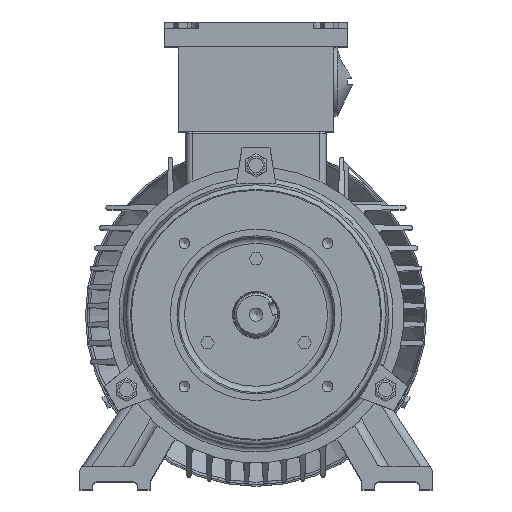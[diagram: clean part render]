
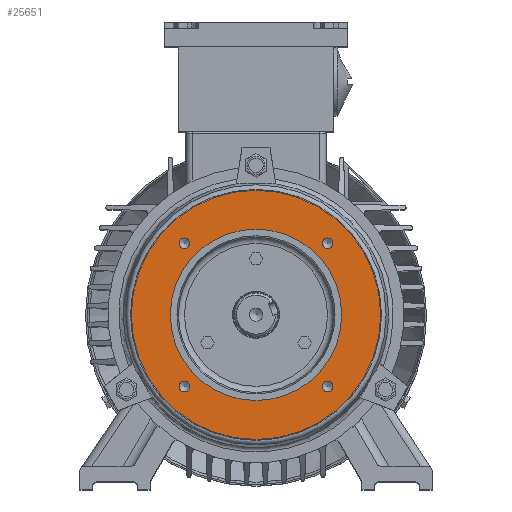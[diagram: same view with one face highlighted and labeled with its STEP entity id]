
A CAD part, top view. The second image highlights one B-rep face of the part: STEP entity #25651.
In plain terms, the highlighted planar face has unit normal (0, 0, 1) as drawn and (-1, 0, 0) by its records, which use the part's own axes.
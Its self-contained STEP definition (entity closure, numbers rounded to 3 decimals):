
#994=PLANE('',#28123);
#1199=FACE_BOUND('',#4084,.T.);
#1200=FACE_BOUND('',#4085,.T.);
#1201=FACE_BOUND('',#4086,.T.);
#1202=FACE_BOUND('',#4087,.T.);
#1203=FACE_BOUND('',#4088,.T.);
#2528=FACE_OUTER_BOUND('',#4083,.T.);
#4083=EDGE_LOOP('',(#23328));
#4084=EDGE_LOOP('',(#23329));
#4085=EDGE_LOOP('',(#23330));
#4086=EDGE_LOOP('',(#23331));
#4087=EDGE_LOOP('',(#23332));
#4088=EDGE_LOOP('',(#23333));
#5100=CIRCLE('',#28024,3.4);
#5102=CIRCLE('',#28028,3.4);
#5104=CIRCLE('',#28032,3.4);
#5106=CIRCLE('',#28036,3.4);
#5116=CIRCLE('',#28052,55.);
#5117=CIRCLE('',#28054,80.);
#12273=VERTEX_POINT('',#45687);
#12276=VERTEX_POINT('',#45696);
#12279=VERTEX_POINT('',#45705);
#12282=VERTEX_POINT('',#45714);
#12293=VERTEX_POINT('',#45747);
#12294=VERTEX_POINT('',#45751);
#15915=EDGE_CURVE('',#12273,#12273,#5100,.T.);
#15919=EDGE_CURVE('',#12276,#12276,#5102,.T.);
#15923=EDGE_CURVE('',#12279,#12279,#5104,.T.);
#15927=EDGE_CURVE('',#12282,#12282,#5106,.T.);
#15943=EDGE_CURVE('',#12293,#12293,#5116,.T.);
#15944=EDGE_CURVE('',#12294,#12294,#5117,.T.);
#23328=ORIENTED_EDGE('',*,*,#15944,.T.);
#23329=ORIENTED_EDGE('',*,*,#15915,.F.);
#23330=ORIENTED_EDGE('',*,*,#15919,.F.);
#23331=ORIENTED_EDGE('',*,*,#15923,.F.);
#23332=ORIENTED_EDGE('',*,*,#15927,.F.);
#23333=ORIENTED_EDGE('',*,*,#15943,.F.);
#25651=ADVANCED_FACE('',(#2528,#1199,#1200,#1201,#1202,#1203),#994,.F.);
#28024=AXIS2_PLACEMENT_3D('',#45689,#34738,#34739);
#28028=AXIS2_PLACEMENT_3D('',#45698,#34748,#34749);
#28032=AXIS2_PLACEMENT_3D('',#45707,#34758,#34759);
#28036=AXIS2_PLACEMENT_3D('',#45716,#34768,#34769);
#28052=AXIS2_PLACEMENT_3D('',#45749,#34806,#34807);
#28054=AXIS2_PLACEMENT_3D('',#45752,#34810,#34811);
#28123=AXIS2_PLACEMENT_3D('',#46096,#35019,#35020);
#34738=DIRECTION('center_axis',(-1.,0.,0.));
#34739=DIRECTION('ref_axis',(0.,0.,1.));
#34748=DIRECTION('center_axis',(-1.,0.,0.));
#34749=DIRECTION('ref_axis',(0.,0.,1.));
#34758=DIRECTION('center_axis',(-1.,0.,0.));
#34759=DIRECTION('ref_axis',(0.,0.,1.));
#34768=DIRECTION('center_axis',(-1.,0.,0.));
#34769=DIRECTION('ref_axis',(0.,0.,1.));
#34806=DIRECTION('center_axis',(-1.,0.,0.));
#34807=DIRECTION('ref_axis',(0.,0.,1.));
#34810=DIRECTION('center_axis',(-1.,0.,0.));
#34811=DIRECTION('ref_axis',(0.,0.,1.));
#35019=DIRECTION('center_axis',(1.,0.,0.));
#35020=DIRECTION('ref_axis',(0.,0.,-1.));
#45687=CARTESIAN_POINT('',(3.5,45.962,42.562));
#45689=CARTESIAN_POINT('Origin',(3.5,45.962,45.962));
#45696=CARTESIAN_POINT('',(3.5,-45.962,42.562));
#45698=CARTESIAN_POINT('Origin',(3.5,-45.962,45.962));
#45705=CARTESIAN_POINT('',(3.5,-45.962,-49.362));
#45707=CARTESIAN_POINT('Origin',(3.5,-45.962,-45.962));
#45714=CARTESIAN_POINT('',(3.5,45.962,-49.362));
#45716=CARTESIAN_POINT('Origin',(3.5,45.962,-45.962));
#45747=CARTESIAN_POINT('',(3.5,0.,-55.));
#45749=CARTESIAN_POINT('Origin',(3.5,0.,0.));
#45751=CARTESIAN_POINT('',(3.5,0.,-80.));
#45752=CARTESIAN_POINT('Origin',(3.5,0.,0.));
#46096=CARTESIAN_POINT('Origin',(3.5,55.,0.));
